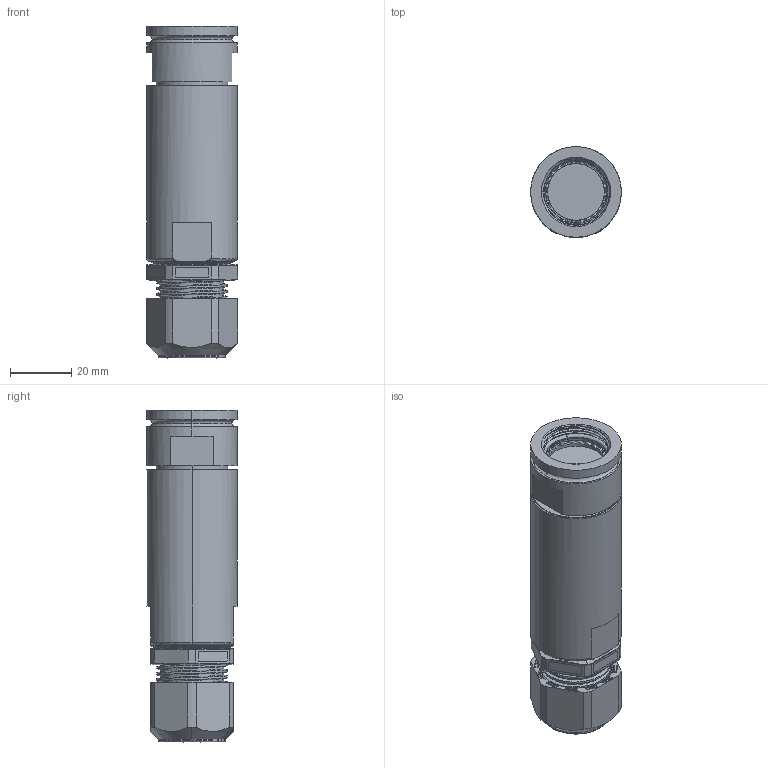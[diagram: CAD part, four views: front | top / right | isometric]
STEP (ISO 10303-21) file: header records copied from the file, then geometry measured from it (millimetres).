
FILE_DESCRIPTION (( 'STEP AP214' ), '1' );
FILE_NAME ('Q38SHELL-STX-15-XXXX-GL.STEP', '2025-09-09T21:08:47', ( '' ), ( '' ), 'SwSTEP 2.0', 'SolidWorks 2024', '' );
FILE_SCHEMA (( 'AUTOMOTIVE_DESIGN' ));
Length unit declared in the file: millimetre
Products named in the file (1): Q38SHELL-STX-15-XXXX-GL
Bounding box: 29.77 x 29.54 x 108.08 mm (x, y, z)
Surface area: 19174.5 mm2 (no closed solid volume)
Topology: 0 solids, 5 shells, 802 faces, 2016 edges, 1260 vertices
Faces by surface type: plane 222, cylinder 197, bspline 137, torus 97, cone 85, sphere 64
Entity records: 38621 total; most frequent: CARTESIAN_POINT 23098, ORIENTED_EDGE 3986, DIRECTION 2090, EDGE_CURVE 2016, B_SPLINE_CURVE_WITH_KNOTS 1277, VERTEX_POINT 1260, AXIS2_PLACEMENT_3D 922, EDGE_LOOP 850
